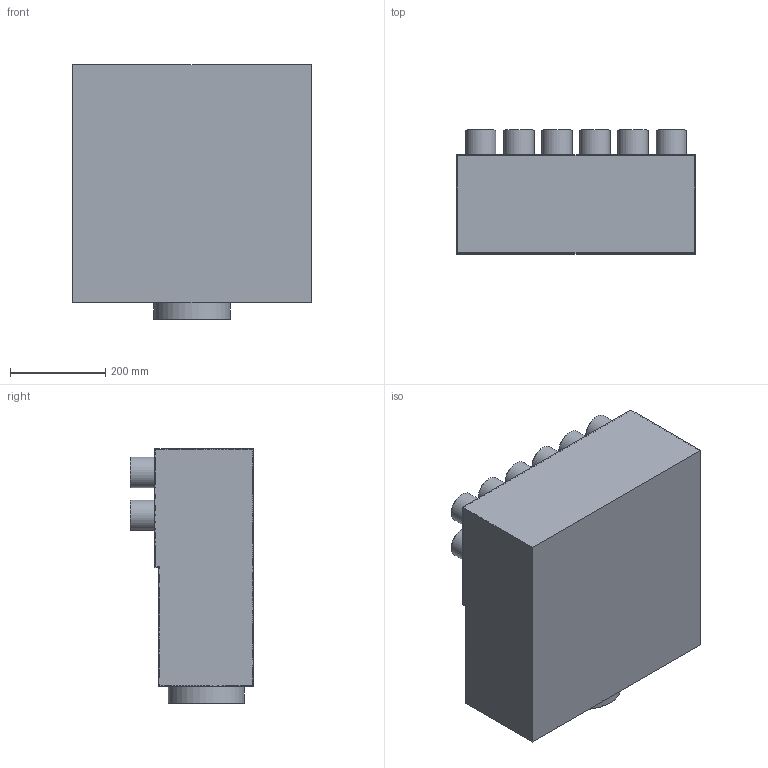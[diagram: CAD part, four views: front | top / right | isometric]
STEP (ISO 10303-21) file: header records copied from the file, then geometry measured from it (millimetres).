
FILE_DESCRIPTION(/* description */ (''),/* implementation_level */ '2;1');
FILE_NAME(/* name */ 'Z:\Output\FRS-VK_12-63_160-V-09336-001.stp',/* time_stamp */ '2017-09-13T14:06:10+02:00',/* author */ ('Engineering1'),/* organization */ (''),/* preprocessor_version */ 'ST-DEVELOPER v16.5',/* originating_system */ 'Autodesk Inventor 2017',/* authorisation */ '');
FILE_SCHEMA (('AUTOMOTIVE_DESIGN { 1 0 10303 214 3 1 1 }'));
Length unit declared in the file: millimetre
Products named in the file (1): FRS-VK_63
Bounding box: 500 x 259.6 x 535 mm (x, y, z)
Volume: 1975287 mm3; surface area: 1980823.1 mm2
Topology: 1 solids, 1 shells, 55 faces, 114 edges, 76 vertices
Faces by surface type: plane 29, cylinder 26
Full cylindrical faces by diameter (mm): 60 x12, 64 x12, 156 x1, 160 x1
Entity records: 1428 total; most frequent: DIRECTION 252, CARTESIAN_POINT 220, ORIENTED_EDGE 176, EDGE_LOOP 120, AXIS2_PLACEMENT_3D 108, EDGE_CURVE 88, VERTEX_POINT 76, FACE_BOUND 65
